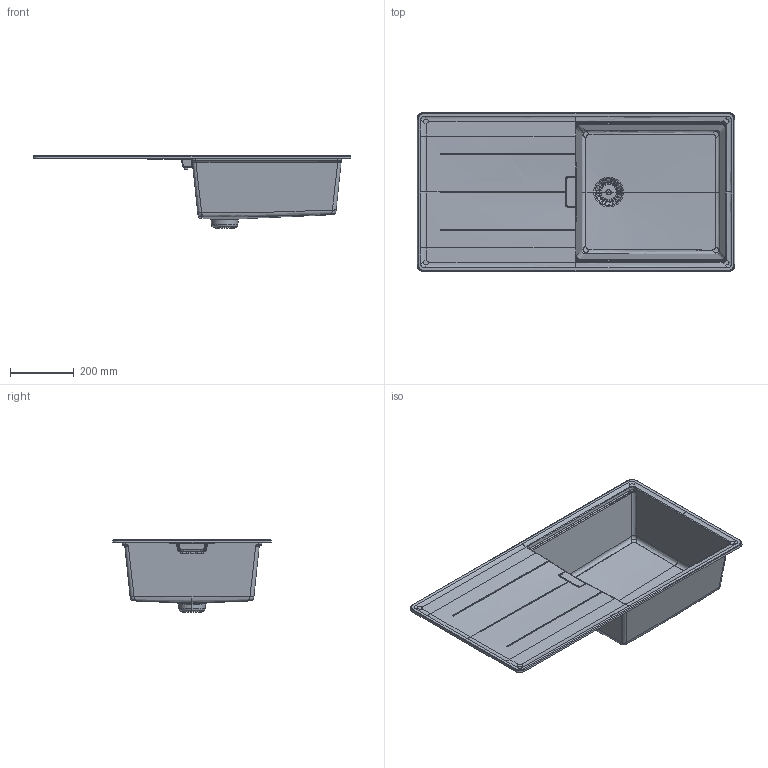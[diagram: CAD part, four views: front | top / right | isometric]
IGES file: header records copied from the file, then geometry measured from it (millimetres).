
Global section: file name: /Users/office3/Desktop/SPU; preprocessor: Trout Lake IGES 012 Dec  4 2019; date: 210309.160522; units: millimetre
Bounding box: 1000 x 500 x 227.03 mm (x, y, z)
Surface area: 824333.9 mm2 (no closed solid volume)
Topology: 0 solids, 0 shells, 441 faces, 40477 edges, 40469 vertices
Faces by surface type: bspline 404, plane 37
